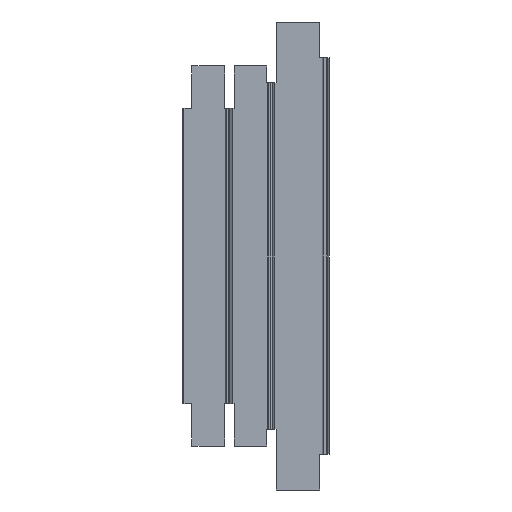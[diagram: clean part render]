
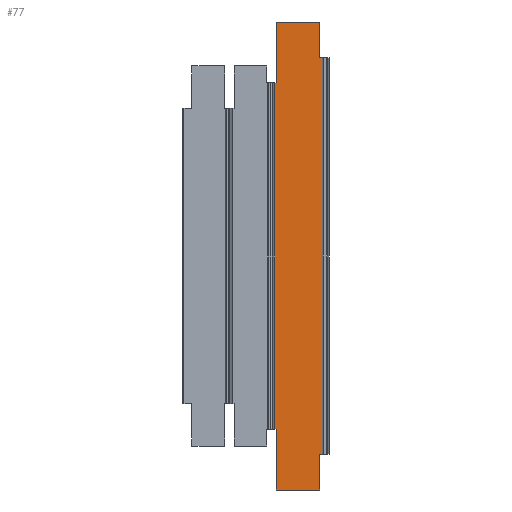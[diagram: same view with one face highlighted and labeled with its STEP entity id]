
A CAD part, front view. The second image highlights one B-rep face of the part: STEP entity #77.
In plain terms, the highlighted planar face has unit normal (0, -1, 0).
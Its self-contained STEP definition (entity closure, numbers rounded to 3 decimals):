
#29=PLANE('',#1568);
#77=ADVANCED_FACE('',(#151),#29,.T.);
#151=FACE_OUTER_BOUND('',#225,.F.);
#225=EDGE_LOOP('',(#332,#333,#334,#335,#336,#337,#338,#339,#340,#341,#342,
#343));
#332=ORIENTED_EDGE('',*,*,#1000,.F.);
#333=ORIENTED_EDGE('',*,*,#958,.T.);
#334=ORIENTED_EDGE('',*,*,#957,.T.);
#335=ORIENTED_EDGE('',*,*,#988,.T.);
#336=ORIENTED_EDGE('',*,*,#965,.T.);
#337=ORIENTED_EDGE('',*,*,#964,.T.);
#338=ORIENTED_EDGE('',*,*,#999,.T.);
#339=ORIENTED_EDGE('',*,*,#837,.T.);
#340=ORIENTED_EDGE('',*,*,#836,.T.);
#341=ORIENTED_EDGE('',*,*,#982,.T.);
#342=ORIENTED_EDGE('',*,*,#870,.T.);
#343=ORIENTED_EDGE('',*,*,#869,.T.);
#836=EDGE_CURVE('',#1480,#1483,#1052,.T.);
#837=EDGE_CURVE('',#1479,#1480,#1053,.T.);
#869=EDGE_CURVE('',#1445,#1446,#1064,.T.);
#870=EDGE_CURVE('',#1466,#1445,#1065,.T.);
#957=EDGE_CURVE('',#1357,#1377,#1112,.T.);
#958=EDGE_CURVE('',#1358,#1357,#1113,.T.);
#964=EDGE_CURVE('',#1352,#1351,#1119,.T.);
#965=EDGE_CURVE('',#1356,#1352,#1120,.T.);
#982=EDGE_CURVE('',#1483,#1466,#1128,.T.);
#988=EDGE_CURVE('',#1377,#1356,#1134,.T.);
#999=EDGE_CURVE('',#1351,#1479,#1145,.T.);
#1000=EDGE_CURVE('',#1358,#1446,#1146,.T.);
#1052=LINE('',#2218,#1198);
#1053=LINE('',#2219,#1199);
#1064=LINE('',#2251,#1210);
#1065=LINE('',#2252,#1211);
#1112=LINE('',#2339,#1258);
#1113=LINE('',#2340,#1259);
#1119=LINE('',#2346,#1265);
#1120=LINE('',#2347,#1266);
#1128=LINE('',#2364,#1274);
#1134=LINE('',#2370,#1280);
#1145=LINE('',#2381,#1291);
#1146=LINE('',#2382,#1292);
#1198=VECTOR('',#1637,8.409);
#1199=VECTOR('',#1638,0.695);
#1210=VECTOR('',#1691,0.305);
#1211=VECTOR('',#1692,14.409);
#1258=VECTOR('',#1819,14.409);
#1259=VECTOR('',#1820,0.305);
#1265=VECTOR('',#1826,0.695);
#1266=VECTOR('',#1827,8.409);
#1274=VECTOR('',#1853,10.3);
#1280=VECTOR('',#1859,10.3);
#1291=VECTOR('',#1870,94.);
#1292=VECTOR('',#1871,82.);
#1351=VERTEX_POINT('',#2081);
#1352=VERTEX_POINT('',#2082);
#1356=VERTEX_POINT('',#2086);
#1357=VERTEX_POINT('',#2087);
#1358=VERTEX_POINT('',#2088);
#1377=VERTEX_POINT('',#2107);
#1445=VERTEX_POINT('',#2175);
#1446=VERTEX_POINT('',#2176);
#1466=VERTEX_POINT('',#2196);
#1479=VERTEX_POINT('',#2209);
#1480=VERTEX_POINT('',#2210);
#1483=VERTEX_POINT('',#2213);
#1568=AXIS2_PLACEMENT_3D('',#2442,#1942,#1943);
#1637=DIRECTION('',(0.,0.,-1.));
#1638=DIRECTION('',(-1.,0.,0.));
#1691=DIRECTION('',(-1.,0.,0.));
#1692=DIRECTION('',(0.,0.,1.));
#1819=DIRECTION('',(0.,0.,1.));
#1820=DIRECTION('',(1.,0.,0.));
#1826=DIRECTION('',(1.,0.,0.));
#1827=DIRECTION('',(0.,0.,-1.));
#1853=DIRECTION('',(-1.,0.,0.));
#1859=DIRECTION('',(1.,0.,0.));
#1870=DIRECTION('',(0.,0.,-1.));
#1871=DIRECTION('',(0.,0.,-1.));
#1942=DIRECTION('',(0.,-1.,0.));
#1943=DIRECTION('',(1.,0.,0.));
#2081=CARTESIAN_POINT('',(397.776,418.513,503.874));
#2082=CARTESIAN_POINT('',(397.081,418.513,503.874));
#2086=CARTESIAN_POINT('',(397.081,418.513,512.282));
#2087=CARTESIAN_POINT('',(386.781,418.513,497.874));
#2088=CARTESIAN_POINT('',(386.476,418.513,497.874));
#2107=CARTESIAN_POINT('',(386.781,418.513,512.282));
#2175=CARTESIAN_POINT('',(386.781,418.513,415.874));
#2176=CARTESIAN_POINT('',(386.476,418.513,415.874));
#2196=CARTESIAN_POINT('',(386.781,418.513,401.465));
#2209=CARTESIAN_POINT('',(397.776,418.513,409.874));
#2210=CARTESIAN_POINT('',(397.081,418.513,409.874));
#2213=CARTESIAN_POINT('',(397.081,418.513,401.465));
#2218=CARTESIAN_POINT('',(397.081,418.513,409.874));
#2219=CARTESIAN_POINT('',(397.776,418.513,409.874));
#2251=CARTESIAN_POINT('',(386.781,418.513,415.874));
#2252=CARTESIAN_POINT('',(386.781,418.513,401.465));
#2339=CARTESIAN_POINT('',(386.781,418.513,497.874));
#2340=CARTESIAN_POINT('',(386.476,418.513,497.874));
#2346=CARTESIAN_POINT('',(397.081,418.513,503.874));
#2347=CARTESIAN_POINT('',(397.081,418.513,512.282));
#2364=CARTESIAN_POINT('',(397.081,418.513,401.465));
#2370=CARTESIAN_POINT('',(386.781,418.513,512.282));
#2381=CARTESIAN_POINT('',(397.776,418.513,503.874));
#2382=CARTESIAN_POINT('',(386.476,418.513,497.874));
#2442=CARTESIAN_POINT('',(385.276,418.513,395.674));
